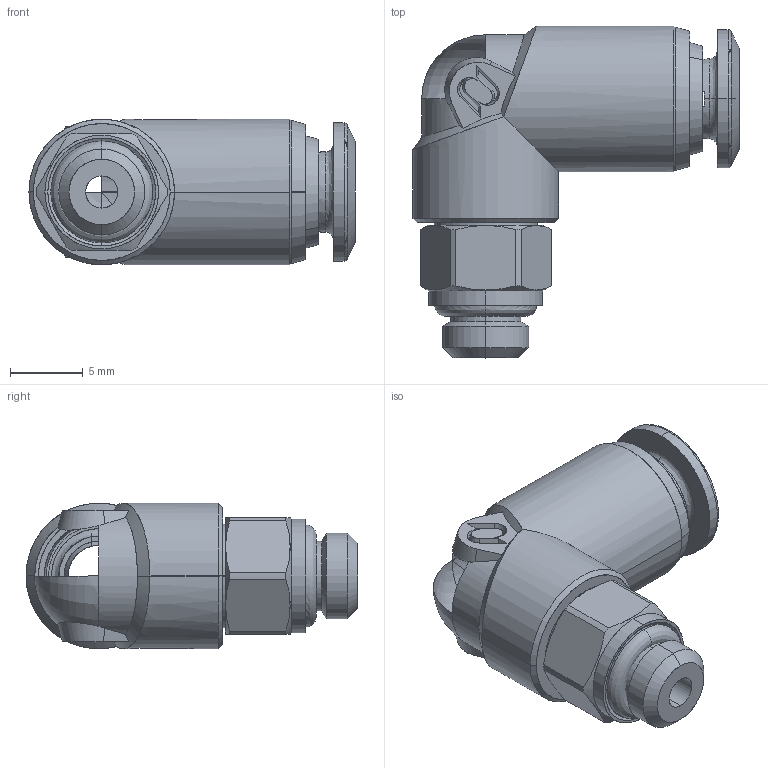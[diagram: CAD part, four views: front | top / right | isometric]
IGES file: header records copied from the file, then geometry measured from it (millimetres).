
Start section: SolidWorks IGES file using analytic representation for surfaces
Global section: file name: C:\Users\cad06\Desktop\AGGIUNTA ARTICOLI CATALOGO\40116V\40116V0026 - Ø4_M6x1\40116V0026.IGS; native system: SolidWorks 2016; preprocessor: SolidWorks 2016; author: cad06; date: 170206.161354; units: millimetre
Bounding box: 22.4 x 22.8 x 10 mm (x, y, z)
Surface area: 1550.1 mm2 (no closed solid volume)
Topology: 0 solids, 0 shells, 128 faces, 1509 edges, 1507 vertices
Faces by surface type: revolution 75, bspline 53
